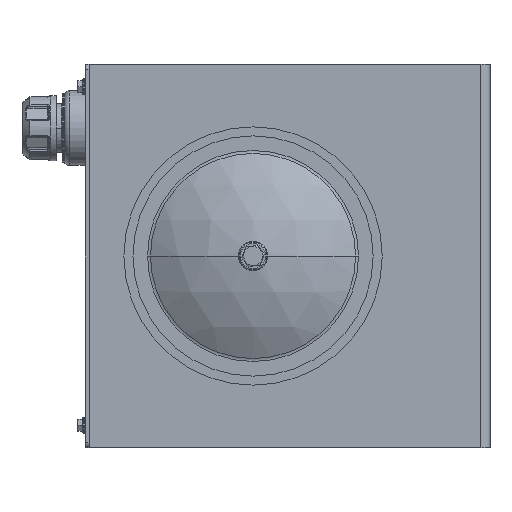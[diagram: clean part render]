
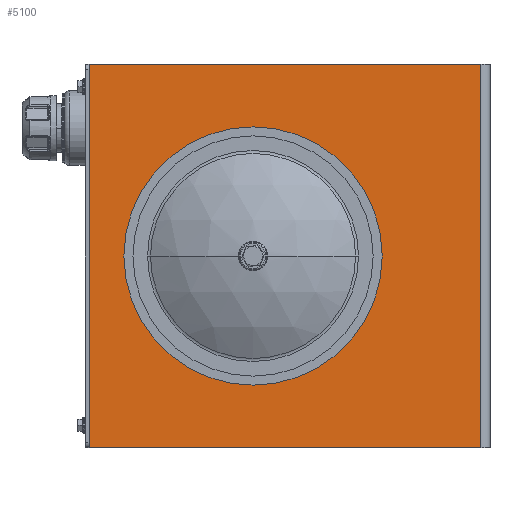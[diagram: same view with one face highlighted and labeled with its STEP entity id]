
A CAD part, left-side view. The second image highlights one B-rep face of the part: STEP entity #5100.
In plain terms, the highlighted planar face has unit normal (-1, 0, 0).
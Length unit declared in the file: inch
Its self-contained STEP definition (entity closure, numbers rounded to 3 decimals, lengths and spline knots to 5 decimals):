
#292 = CARTESIAN_POINT ( 'NONE',  ( -20.91663, -10.16679, 8.7323 ) ) ;
#1732 = DIRECTION ( 'NONE',  ( 0., 0., 1. ) ) ;
#1942 = EDGE_LOOP ( 'NONE', ( #28828, #4249 ) ) ;
#2103 = AXIS2_PLACEMENT_3D ( 'NONE', #12384, #29227, #14829 ) ;
#2747 = DIRECTION ( 'NONE',  ( 0., 1., 0. ) ) ;
#4249 = ORIENTED_EDGE ( 'NONE', *, *, #11143, .F. ) ;
#4271 = CARTESIAN_POINT ( 'NONE',  ( -20.91663, -9.73749, 8.7323 ) ) ;
#5100 = ADVANCED_FACE ( 'NONE', ( #28998, #5549 ), #19273, .F. ) ;
#5549 = FACE_OUTER_BOUND ( 'NONE', #23717, .T. ) ;
#5620 = AXIS2_PLACEMENT_3D ( 'NONE', #10761, #27649, #13179 ) ;
#5859 = LINE ( 'NONE', #8995, #30769 ) ;
#5951 = CIRCLE ( 'NONE', #2103, 5. ) ;
#6167 = LINE ( 'NONE', #16685, #11162 ) ;
#6314 = ORIENTED_EDGE ( 'NONE', *, *, #19455, .T. ) ;
#6968 = DIRECTION ( 'NONE',  ( 0., 0., -1. ) ) ;
#7116 = DIRECTION ( 'NONE',  ( 0., 0., -1. ) ) ;
#7689 = LINE ( 'NONE', #10215, #19882 ) ;
#8470 = EDGE_CURVE ( 'NONE', #17403, #14934, #7689, .T. ) ;
#8627 = ORIENTED_EDGE ( 'NONE', *, *, #8470, .T. ) ;
#8987 = ORIENTED_EDGE ( 'NONE', *, *, #9075, .T. ) ;
#8995 = CARTESIAN_POINT ( 'NONE',  ( -20.91663, -9.73749, -9.2677 ) ) ;
#9075 = EDGE_CURVE ( 'NONE', #21391, #30340, #11993, .T. ) ;
#10137 = ORIENTED_EDGE ( 'NONE', *, *, #25930, .T. ) ;
#10215 = CARTESIAN_POINT ( 'NONE',  ( -20.91663, -10.16679, -9.2677 ) ) ;
#10607 = CARTESIAN_POINT ( 'NONE',  ( -20.91663, -9.73749, -9.2677 ) ) ;
#10761 = CARTESIAN_POINT ( 'NONE',  ( -20.91663, 0.95571, -0.2677 ) ) ;
#11143 = EDGE_CURVE ( 'NONE', #29230, #16469, #19096, .T. ) ;
#11162 = VECTOR ( 'NONE', #6968, 39.37008 ) ;
#11239 = VECTOR ( 'NONE', #2747, 39.37008 ) ;
#11438 = AXIS2_PLACEMENT_3D ( 'NONE', #14271, #21700, #7116 ) ;
#11993 = LINE ( 'NONE', #292, #11239 ) ;
#12330 = CARTESIAN_POINT ( 'NONE',  ( -20.91663, 8.64571, 8.7323 ) ) ;
#12384 = CARTESIAN_POINT ( 'NONE',  ( -20.91663, 0.95571, -0.2677 ) ) ;
#13179 = DIRECTION ( 'NONE',  ( 0., 0., 1. ) ) ;
#14271 = CARTESIAN_POINT ( 'NONE',  ( -20.91663, 8.64571, -9.2677 ) ) ;
#14829 = DIRECTION ( 'NONE',  ( 0., 0., 1. ) ) ;
#14934 = VERTEX_POINT ( 'NONE', #10607 ) ;
#16469 = VERTEX_POINT ( 'NONE', #28000 ) ;
#16685 = CARTESIAN_POINT ( 'NONE',  ( -20.91663, 8.64571, -9.2677 ) ) ;
#17403 = VERTEX_POINT ( 'NONE', #23755 ) ;
#19096 = CIRCLE ( 'NONE', #5620, 5. ) ;
#19273 = PLANE ( 'NONE',  #11438 ) ;
#19455 = EDGE_CURVE ( 'NONE', #30340, #17403, #6167, .T. ) ;
#19882 = VECTOR ( 'NONE', #27136, 39.37008 ) ;
#21391 = VERTEX_POINT ( 'NONE', #4271 ) ;
#21700 = DIRECTION ( 'NONE',  ( 1., 0., 0. ) ) ;
#23717 = EDGE_LOOP ( 'NONE', ( #10137, #8987, #6314, #8627 ) ) ;
#23755 = CARTESIAN_POINT ( 'NONE',  ( -20.91663, 8.64571, -9.2677 ) ) ;
#24335 = EDGE_CURVE ( 'NONE', #16469, #29230, #5951, .T. ) ;
#24412 = CARTESIAN_POINT ( 'NONE',  ( -20.91663, 0.95571, -5.2677 ) ) ;
#25930 = EDGE_CURVE ( 'NONE', #14934, #21391, #5859, .T. ) ;
#27136 = DIRECTION ( 'NONE',  ( 0., -1., 0. ) ) ;
#27649 = DIRECTION ( 'NONE',  ( -1., 0., 0. ) ) ;
#28000 = CARTESIAN_POINT ( 'NONE',  ( -20.91663, 0.95571, 4.7323 ) ) ;
#28828 = ORIENTED_EDGE ( 'NONE', *, *, #24335, .F. ) ;
#28998 = FACE_BOUND ( 'NONE', #1942, .T. ) ;
#29227 = DIRECTION ( 'NONE',  ( -1., 0., 0. ) ) ;
#29230 = VERTEX_POINT ( 'NONE', #24412 ) ;
#30340 = VERTEX_POINT ( 'NONE', #12330 ) ;
#30769 = VECTOR ( 'NONE', #1732, 39.37008 ) ;
